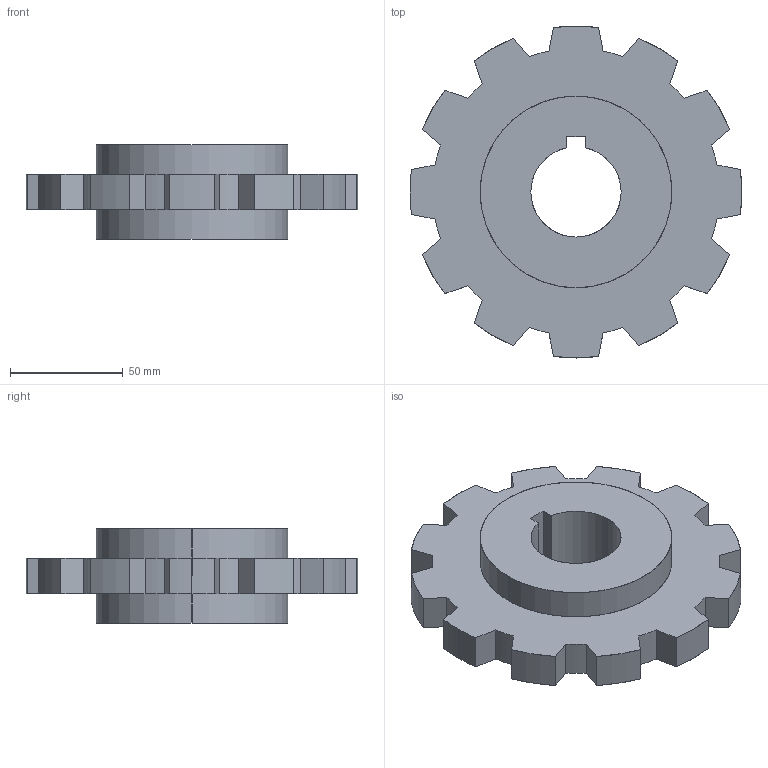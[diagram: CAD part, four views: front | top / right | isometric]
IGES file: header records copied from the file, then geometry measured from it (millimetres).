
Start section: SolidWorks IGES file using analytic representation for surfaces
Global section: file name: C:\Documents and Settings\URETIM3\Desktop\yeni katalog tolgay\387 asetal dönüþlü bant diþlisi (tek parça)\387 KDT 412.IGS; native system: SolidWorks 2006 by SolidWorks Corporation; preprocessor: SolidWorks 2006 by SolidWorks Corporation; author: URETIM3; date: 061108.093444; units: millimetre
Bounding box: 147.2 x 147.2 x 42 mm (x, y, z)
Surface area: 50398.2 mm2 (no closed solid volume)
Topology: 0 solids, 0 shells, 63 faces, 714 edges, 714 vertices
Faces by surface type: revolution 32, bspline 31
